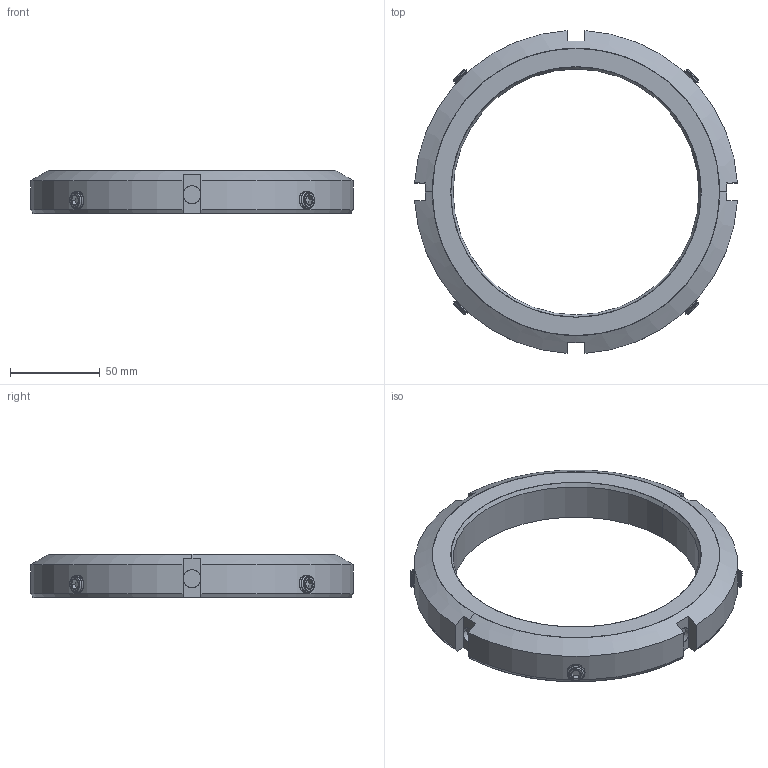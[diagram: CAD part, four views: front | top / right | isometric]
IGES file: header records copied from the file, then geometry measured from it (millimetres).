
Start section: SolidWorks IGES file using analytic representation for surfaces
Global section: file name: C:\Manufacturing Design Services\Taperline Manufacturing\Catalog\TLNKM 28\TLNKM 28 PH.IGS; native system: SolidWorks 2010; preprocessor: SolidWorks 2010; author: ProBook; date: 110807.204341; units: millimetre
Bounding box: 179.71 x 179.71 x 24 mm (x, y, z)
Surface area: 59189.7 mm2 (no closed solid volume)
Topology: 0 solids, 0 shells, 374 faces, 9208 edges, 9208 vertices
Faces by surface type: revolution 304, bspline 70
